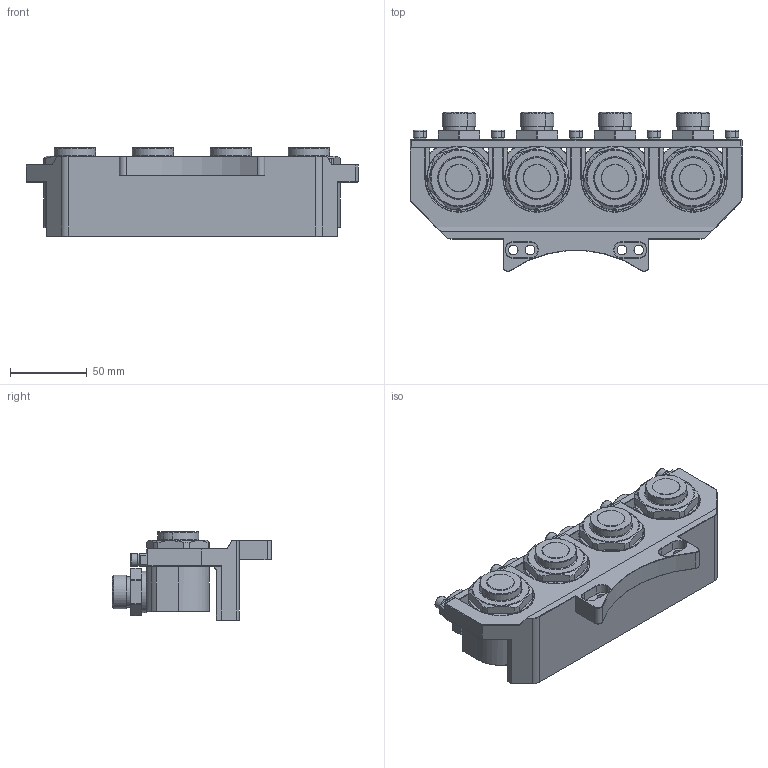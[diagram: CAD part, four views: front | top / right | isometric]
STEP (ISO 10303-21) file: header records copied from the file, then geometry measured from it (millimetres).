
FILE_DESCRIPTION(/* description */ (''),/* implementation_level */ '2;1');
FILE_NAME(/* name */ 'QCWM-04R1.stp',/* time_stamp */ '2023-09-26T14:59:54+08:00',/* author */ (''),/* organization */ (''),/* preprocessor_version */ 'ST-DEVELOPER v16.7',/* originating_system */ 'SIEMENS PLM Software NX 12.0',/* authorisation */ '');
FILE_SCHEMA (('AUTOMOTIVE_DESIGN { 1 0 10303 214 3 1 1 1 }'));
Length unit declared in the file: millimetre
Products named in the file (1): _model17
Bounding box: 217 x 104.13 x 58.23 mm (x, y, z)
Volume: 469904.8 mm3; surface area: 115563.3 mm2
Topology: 1 solids, 10 shells, 1198 faces, 2918 edges, 1720 vertices
Faces by surface type: plane 505, cylinder 323, cone 224, torus 146
Entity records: 35734 total; most frequent: CARTESIAN_POINT 6983, DIRECTION 6490, ORIENTED_EDGE 5796, EDGE_CURVE 2898, AXIS2_PLACEMENT_3D 2523, VERTEX_POINT 1720, LINE 1444, VECTOR 1444
